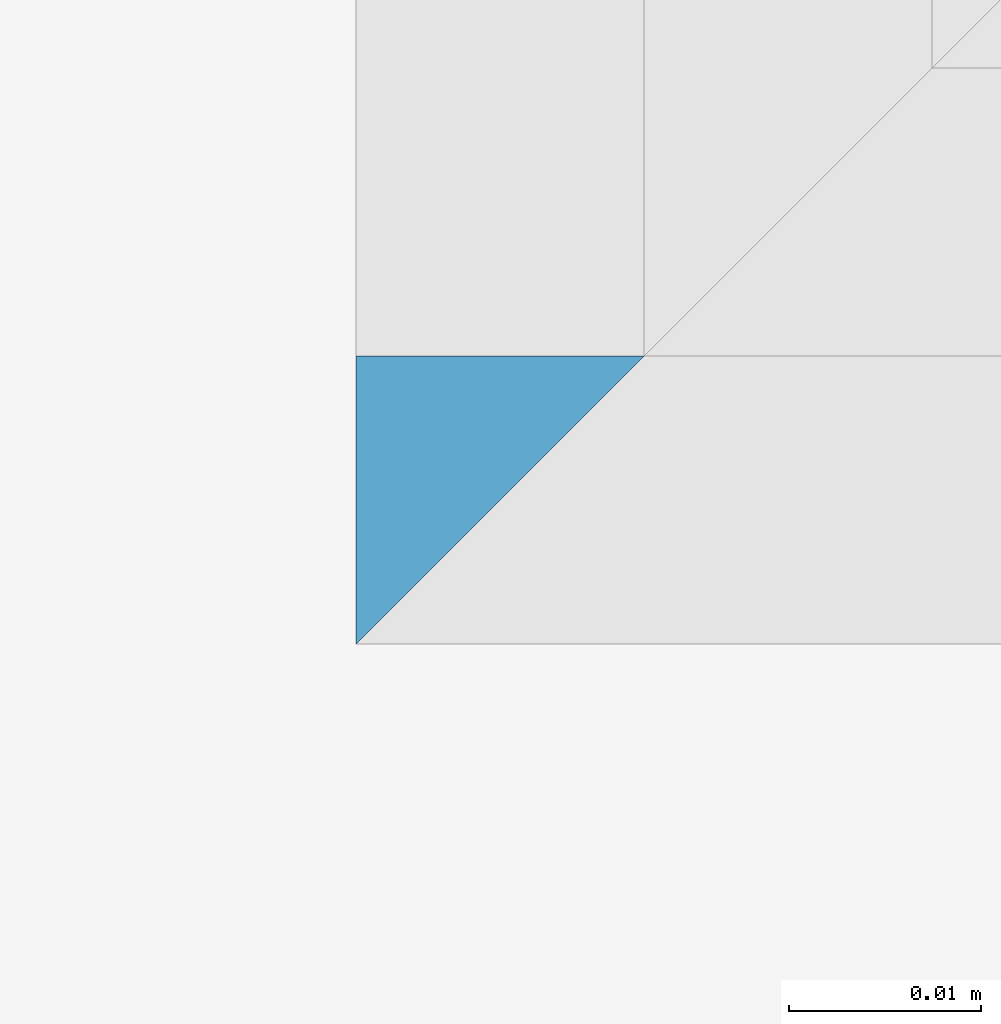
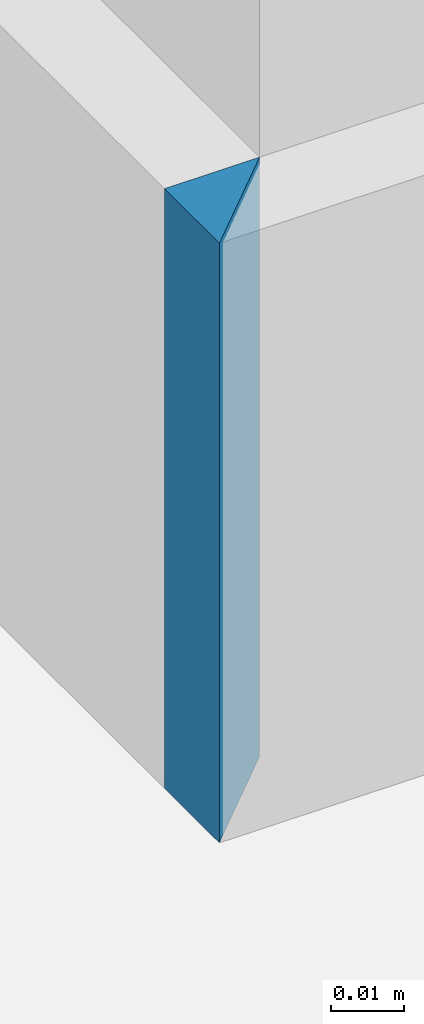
# One storey, part 28 of 64: 1 building element part, 1 element without a shape of its own.
"""IFC2X3 building model written with IfcOpenShell, lengths in metres."""

from ifc_helpers import new_model, entity, si_unit, converted_unit, derived_unit, money_unit, direction, frame, origin_with_axes, place, context, subcontext, project, spatial, polyline, outline, extrude, material, type_object, element, aggregate, save


model = new_model("IFC2X3")

# Units and contexts
model_context = context("Model", 3, precision=1e-05, world=origin_with_axes(), true_north=direction((0.0, 1.0)))
body_context = subcontext(model_context, "Body", "Model", "MODEL_VIEW", scale=1.0)
ifc_project = project(units=[si_unit("LENGTHUNIT", "METRE"), si_unit("AREAUNIT", "SQUARE_METRE"), si_unit("VOLUMEUNIT", "CUBIC_METRE"), si_unit("ABSORBEDDOSEUNIT", "GRAY"), si_unit("AMOUNTOFSUBSTANCEUNIT", "MOLE"), si_unit("DOSEEQUIVALENTUNIT", "SIEVERT"), si_unit("ELECTRICCAPACITANCEUNIT", "FARAD"), si_unit("ELECTRICCHARGEUNIT", "COULOMB"), si_unit("ELECTRICCONDUCTANCEUNIT", "SIEMENS"), si_unit("ELECTRICCURRENTUNIT", "AMPERE"), si_unit("ELECTRICRESISTANCEUNIT", "OHM"), si_unit("ELECTRICVOLTAGEUNIT", "VOLT"), si_unit("ENERGYUNIT", "JOULE"), si_unit("FORCEUNIT", "NEWTON"), si_unit("FREQUENCYUNIT", "HERTZ"), si_unit("ILLUMINANCEUNIT", "LUX"), si_unit("INDUCTANCEUNIT", "HENRY"), si_unit("LUMINOUSFLUXUNIT", "LUMEN"), si_unit("LUMINOUSINTENSITYUNIT", "CANDELA"), si_unit("MAGNETICFLUXDENSITYUNIT", "TESLA"), si_unit("MAGNETICFLUXUNIT", "WEBER"), si_unit("MASSUNIT", "GRAM"), converted_unit("PLANEANGLEUNIT", "degree", entity("IfcReal", 0.0174532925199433), si_unit("PLANEANGLEUNIT", "RADIAN"), dimensions=[0, 0, 0, 0, 0, 0, 0]), si_unit("POWERUNIT", "WATT"), si_unit("PRESSUREUNIT", "PASCAL"), si_unit("RADIOACTIVITYUNIT", "BECQUEREL"), si_unit("SOLIDANGLEUNIT", "STERADIAN"), si_unit("THERMODYNAMICTEMPERATUREUNIT", "KELVIN"), si_unit("TIMEUNIT", "SECOND"), derived_unit("ACCELERATIONUNIT", [(si_unit("LENGTHUNIT", "METRE"), 1), (si_unit("TIMEUNIT", "SECOND"), -2)]), derived_unit("ANGULARVELOCITYUNIT", [(converted_unit("PLANEANGLEUNIT", "degree", entity("IfcReal", 0.0174532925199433), si_unit("PLANEANGLEUNIT", "RADIAN"), dimensions=[0, 0, 0, 0, 0, 0, 0]), 1), (si_unit("TIMEUNIT", "SECOND"), -1)]), derived_unit("CURVATUREUNIT", [(converted_unit("PLANEANGLEUNIT", "degree", entity("IfcReal", 0.0174532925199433), si_unit("PLANEANGLEUNIT", "RADIAN"), dimensions=[0, 0, 0, 0, 0, 0, 0]), 1), (si_unit("LENGTHUNIT", "METRE"), -1)]), derived_unit("DYNAMICVISCOSITYUNIT", [(si_unit("PRESSUREUNIT", "PASCAL"), 1), (si_unit("TIMEUNIT", "SECOND"), 1)]), derived_unit("HEATFLUXDENSITYUNIT", [(si_unit("POWERUNIT", "WATT"), 1), (si_unit("LENGTHUNIT", "METRE"), -2)]), derived_unit("HEATINGVALUEUNIT", [(si_unit("ENERGYUNIT", "JOULE"), 1), (si_unit("MASSUNIT", "GRAM"), -1)]), derived_unit("INTEGERCOUNTRATEUNIT", [(si_unit("TIMEUNIT", "SECOND"), -1)]), derived_unit("IONCONCENTRATIONUNIT", [(si_unit("MASSUNIT", "GRAM"), 1), (si_unit("VOLUMEUNIT", "CUBIC_METRE"), -1)]), derived_unit("ISOTHERMALMOISTURECAPACITYUNIT", [(si_unit("VOLUMEUNIT", "CUBIC_METRE"), 1), (si_unit("MASSUNIT", "GRAM"), -1)]), derived_unit("KINEMATICVISCOSITYUNIT", [(si_unit("AREAUNIT", "SQUARE_METRE"), 1), (si_unit("TIMEUNIT", "SECOND"), -1)]), derived_unit("LINEARFORCEUNIT", [(si_unit("FORCEUNIT", "NEWTON"), 1), (si_unit("LENGTHUNIT", "METRE"), -1)]), derived_unit("LINEARMOMENTUNIT", [(si_unit("FORCEUNIT", "NEWTON"), 1), (si_unit("LENGTHUNIT", "METRE"), -1)]), derived_unit("LINEARSTIFFNESSUNIT", [(si_unit("FORCEUNIT", "NEWTON"), 1), (si_unit("LENGTHUNIT", "METRE"), -1)]), derived_unit("LINEARVELOCITYUNIT", [(si_unit("LENGTHUNIT", "METRE"), 1), (si_unit("TIMEUNIT", "SECOND"), -1)]), derived_unit("LUMINOUSINTENSITYDISTRIBUTIONUNIT", [(si_unit("LUMINOUSINTENSITYUNIT", "CANDELA"), 1), (si_unit("LUMINOUSFLUXUNIT", "LUMEN"), -1)]), derived_unit("MASSDENSITYUNIT", [(si_unit("MASSUNIT", "GRAM"), 1), (si_unit("VOLUMEUNIT", "CUBIC_METRE"), -1)]), derived_unit("MASSFLOWRATEUNIT", [(si_unit("MASSUNIT", "GRAM"), 1), (si_unit("TIMEUNIT", "SECOND"), -1)]), derived_unit("MASSPERLENGTHUNIT", [(si_unit("MASSUNIT", "GRAM"), 1), (si_unit("LENGTHUNIT", "METRE"), -1)]), derived_unit("MODULUSOFELASTICITYUNIT", [(si_unit("FORCEUNIT", "NEWTON"), 1), (si_unit("AREAUNIT", "SQUARE_METRE"), -1)]), derived_unit("MODULUSOFLINEARSUBGRADEREACTIONUNIT", [(si_unit("FORCEUNIT", "NEWTON"), 1), (si_unit("LENGTHUNIT", "METRE"), -2)]), derived_unit("MODULUSOFROTATIONALSUBGRADEREACTIONUNIT", [(si_unit("FORCEUNIT", "NEWTON"), 1), (si_unit("LENGTHUNIT", "METRE"), 1)]), derived_unit("MODULUSOFSUBGRADEREACTIONUNIT", [(si_unit("FORCEUNIT", "NEWTON"), 1), (si_unit("VOLUMEUNIT", "CUBIC_METRE"), -1)]), derived_unit("MOISTUREDIFFUSIVITYUNIT", [(si_unit("VOLUMEUNIT", "CUBIC_METRE"), 1), (si_unit("TIMEUNIT", "SECOND"), -1)]), derived_unit("MOLECULARWEIGHTUNIT", [(si_unit("MASSUNIT", "GRAM"), 1), (si_unit("AMOUNTOFSUBSTANCEUNIT", "MOLE"), -1)]), derived_unit("PLANARFORCEUNIT", [(si_unit("FORCEUNIT", "NEWTON"), 1), (si_unit("LENGTHUNIT", "METRE"), -2)]), derived_unit("ROTATIONALFREQUENCYUNIT", [(si_unit("TIMEUNIT", "SECOND"), -1)]), derived_unit("ROTATIONALMASSUNIT", [(si_unit("MASSUNIT", "GRAM"), 1), (si_unit("LENGTHUNIT", "METRE"), 2)]), derived_unit("ROTATIONALSTIFFNESSUNIT", [(si_unit("FORCEUNIT", "NEWTON"), 1), (si_unit("LENGTHUNIT", "METRE"), 1), (converted_unit("PLANEANGLEUNIT", "degree", entity("IfcReal", 0.0174532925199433), si_unit("PLANEANGLEUNIT", "RADIAN"), dimensions=[0, 0, 0, 0, 0, 0, 0]), -1)]), derived_unit("SECTIONAREAINTEGRALUNIT", [(si_unit("LENGTHUNIT", "METRE"), 5)]), derived_unit("SECTIONMODULUSUNIT", [(si_unit("LENGTHUNIT", "METRE"), 3)]), derived_unit("SHEARMODULUSUNIT", [(si_unit("FORCEUNIT", "NEWTON"), 1), (si_unit("AREAUNIT", "SQUARE_METRE"), -1)]), derived_unit("SOUNDPOWERUNIT", [(si_unit("ENERGYUNIT", "JOULE"), 1), (si_unit("TIMEUNIT", "SECOND"), -1)]), derived_unit("SPECIFICHEATCAPACITYUNIT", [(si_unit("FORCEUNIT", "NEWTON"), 1), (si_unit("MASSUNIT", "GRAM"), -1), (si_unit("THERMODYNAMICTEMPERATUREUNIT", "KELVIN"), -1)]), derived_unit("TEMPERATUREGRADIENTUNIT", [(si_unit("THERMODYNAMICTEMPERATUREUNIT", "KELVIN"), 1), (si_unit("LENGTHUNIT", "METRE"), -1)]), derived_unit("THERMALADMITTANCEUNIT", [(si_unit("POWERUNIT", "WATT"), 1), (si_unit("AREAUNIT", "SQUARE_METRE"), -1), (si_unit("THERMODYNAMICTEMPERATUREUNIT", "KELVIN"), -1)]), derived_unit("THERMALCONDUCTANCEUNIT", [(si_unit("POWERUNIT", "WATT"), 1), (si_unit("LENGTHUNIT", "METRE"), -1), (si_unit("THERMODYNAMICTEMPERATUREUNIT", "KELVIN"), -1)]), derived_unit("THERMALEXPANSIONCOEFFICIENTUNIT", [(si_unit("THERMODYNAMICTEMPERATUREUNIT", "KELVIN"), -1)]), derived_unit("THERMALRESISTANCEUNIT", [(si_unit("AREAUNIT", "SQUARE_METRE"), 1), (si_unit("POWERUNIT", "WATT"), -1)]), derived_unit("THERMALTRANSMITTANCEUNIT", [(si_unit("POWERUNIT", "WATT"), 1), (si_unit("AREAUNIT", "SQUARE_METRE"), -1), (si_unit("THERMODYNAMICTEMPERATUREUNIT", "KELVIN"), -1)]), derived_unit("TORQUEUNIT", [(si_unit("FORCEUNIT", "NEWTON"), 1), (si_unit("LENGTHUNIT", "METRE"), 1)]), derived_unit("VAPORPERMEABILITYUNIT", [(si_unit("MASSUNIT", "GRAM"), 1), (si_unit("TIMEUNIT", "SECOND"), -1)]), derived_unit("VOLUMETRICFLOWRATEUNIT", [(si_unit("VOLUMEUNIT", "CUBIC_METRE"), 1), (si_unit("TIMEUNIT", "SECOND"), -1)]), derived_unit("WARPINGCONSTANTUNIT", [(si_unit("LENGTHUNIT", "METRE"), 6)]), derived_unit("WARPINGMOMENTUNIT", [(si_unit("FORCEUNIT", "NEWTON"), 1), (si_unit("LENGTHUNIT", "METRE"), 2)]), money_unit("GBP")], contexts=[model_context])

# Site, building, storey
site_placement = place(None, origin_with_axes())
site = spatial("IfcSite", under=ifc_project, at=site_placement, Name="Site", CompositionType="ELEMENT")
building_placement = place(site_placement, origin_with_axes())
building = spatial("IfcBuilding", under=site, at=building_placement, Name="Building01", CompositionType="ELEMENT")
storey_placement = place(building_placement, frame((0.0, 0.0, 8.64), z_axis=(0.0, 0.0, 1.0), x_axis=(1.0, 0.0, 0.0)))
storey = spatial("IfcBuildingStorey", under=building, at=storey_placement, Name="2F", CompositionType="ELEMENT", Elevation=8.64)

# Wall, building element part
wall_type = type_object("IfcWallType", Name="SHE_A-Walls_Type01c_Partywall_225mm_twin_tall", PredefinedType="NOTDEFINED")
wall_placement = place(storey_placement, frame((12.288, 4.98, 0.0), z_axis=(0.0, 0.0, 1.0), x_axis=(0.0, -1.0, 0.0)))
wall = element("IfcWall", 1, at=wall_placement, inside=storey, type_object=wall_type, Name="1C", ObjectType="SHE_A-Walls_Type01c_Partywall_225mm_twin_tall")
ifc_material = material(Name="A_BSUK_Walls_Timber")
building_element_part_placement = place(wall_placement, origin_with_axes())
building_element_part = element("IfcBuildingElementPart", 2, at=building_element_part_placement, material=ifc_material, Name="2", context=body_context, shape_type="SweptSolid", body=[
    extrude(outline(polyline([(0.815572, -0.138), (0.815557, -0.138), (0.815557, -0.153), (0.830572, -0.153), (0.815572, -0.138)])), frame((0.0, 0.0, 0.015), z_axis=(0.0, 0.0, 1.0), x_axis=(1.0, 0.0, 0.0)), (0.0, 0.0, 1.0), 0.1),
])
aggregate(wall, [building_element_part])

save(model, "model.ifc")
